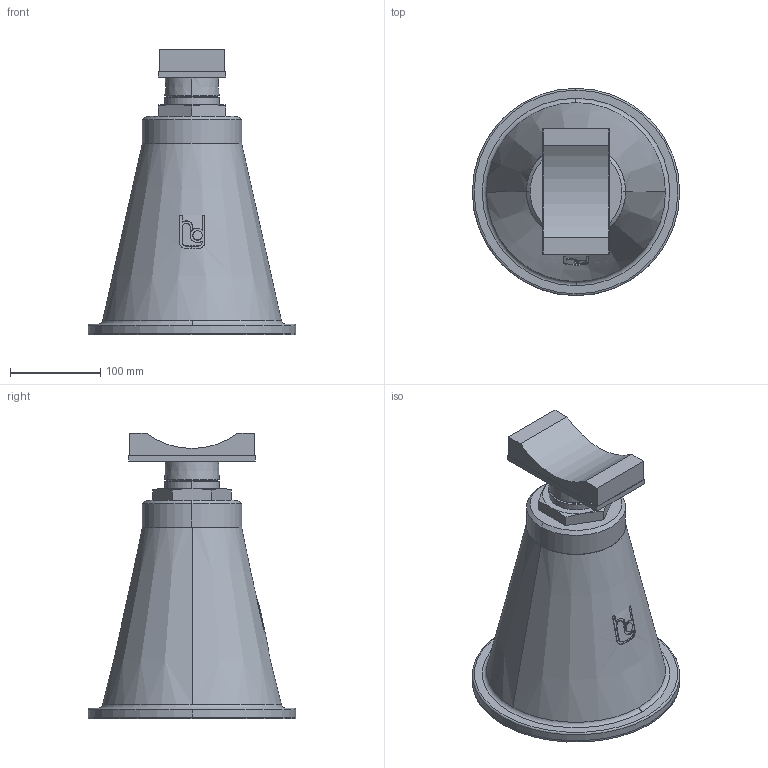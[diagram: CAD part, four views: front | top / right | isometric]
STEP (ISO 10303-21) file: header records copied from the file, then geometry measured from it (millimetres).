
FILE_DESCRIPTION(('STEP AP214'),'1');
FILE_NAME('RSRFA_DN150.stp','2018-06-25T09:50:16',(' '),(' '),'Spatial InterOp 3D',' ',' ');
FILE_SCHEMA(('automotive_design'));
Length unit declared in the file: millimetre
Products named in the file (6): 1; 2; 3; 4; 5; 6
Bounding box: 230 x 230 x 317 mm (x, y, z)
Volume: 5704193.9 mm3; surface area: 395554.8 mm2
Topology: 6 solids, 7 shells, 118 faces, 280 edges, 180 vertices
Faces by surface type: plane 51, cylinder 34, cone 25, torus 8
Entity records: 4854 total; most frequent: CARTESIAN_POINT 1042, DIRECTION 592, ORIENTED_EDGE 560, EDGE_CURVE 280, AXIS2_PLACEMENT_3D 230, VERTEX_POINT 180, LINE 132, VECTOR 132
